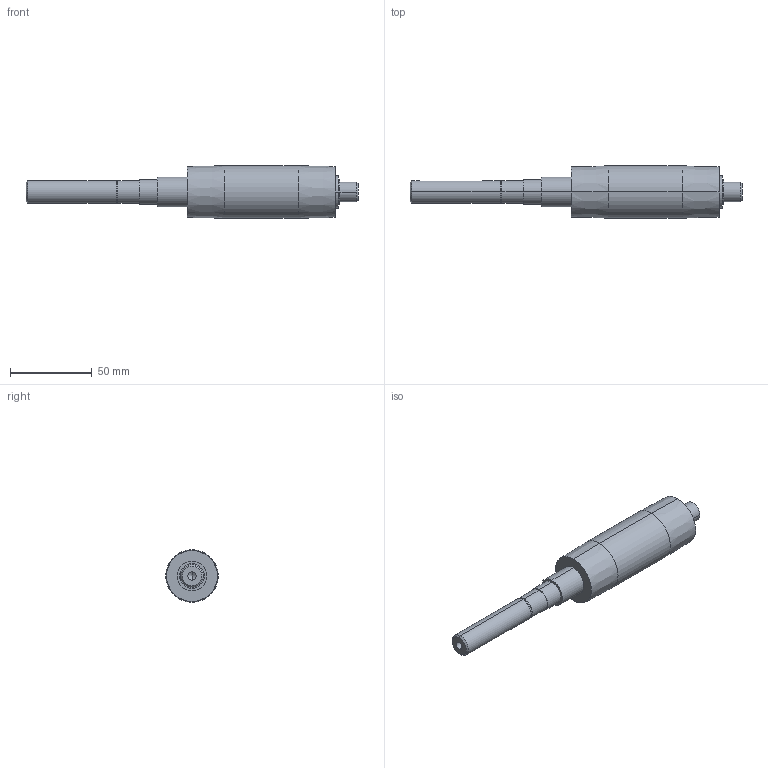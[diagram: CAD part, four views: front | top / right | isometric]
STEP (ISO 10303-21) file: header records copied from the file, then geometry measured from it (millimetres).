
FILE_DESCRIPTION (( 'STEP AP214' ), '1' );
FILE_NAME ('084.030.109.STEP', '2021-02-05T15:34:07', ( '' ), ( '' ), 'SwSTEP 2.0', 'SolidWorks 2018', '' );
FILE_SCHEMA (( 'AUTOMOTIVE_DESIGN' ));
Length unit declared in the file: millimetre
Products named in the file (1): 084.030.109
Bounding box: 202.5 x 32 x 32 mm (x, y, z)
Volume: 89555.2 mm3; surface area: 16197.9 mm2
Topology: 1 solids, 1 shells, 45 faces, 92 edges, 57 vertices
Faces by surface type: cylinder 22, plane 13, cone 10
Entity records: 1296 total; most frequent: CARTESIAN_POINT 255, DIRECTION 230, ORIENTED_EDGE 180, AXIS2_PLACEMENT_3D 96, EDGE_CURVE 90, VERTEX_POINT 57, EDGE_LOOP 55, CIRCLE 50
